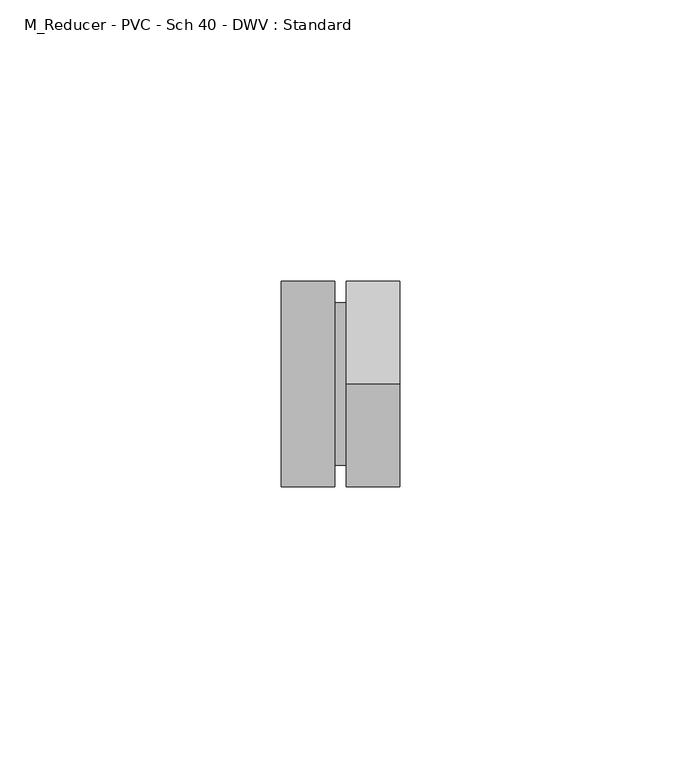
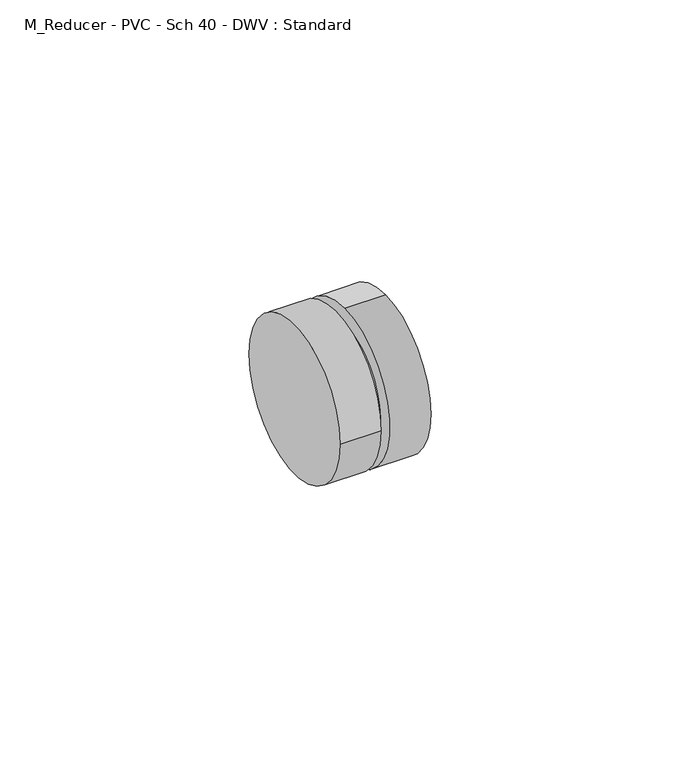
"""IFC4 building model written with IfcOpenShell, lengths in millimetres: pipe fitting geometry, M_Reducer - PVC - Sch 40 - DWV : Standard."""

from ifc_helpers import new_model, si_unit, frame, origin, place, context, project, spatial, polyline, circle_curve, source, transform, mapped, element, save
from ifc_brep_helpers import plane_surface, cylinder_surface, revolved_surface, advanced_brep


def m_reducer_pvc_sch_40_dwv_standard_054c0fc6(model_context):
    return source(origin(), model_context, "Body", "AdvancedBrep", [
        advanced_brep(
        [(0.0, -18.2741094, 0.0), (0.0, 18.2741094, 0.0), (9.525, -18.2741094, 0.0), (9.525, 18.2741094, 0.0), (9.525, 14.4700625, 0.0), (9.525, -14.4700625, 0.0), (11.5635938, 14.4440625, 0.0), (11.5635937, -14.4440625, 0.0), (11.5635938, 0.0, 18.2471094), (11.5635938, 0.0, -18.2471094), (21.0635938, 0.0, 18.2471094), (21.0635938, 0.0, -18.2471094)],
        [
            (0, 1, circle_curve(frame((0.0, 0.0, 0.0), z_axis=(-1.0, 0.0, 0.0), x_axis=(0.0, 1.0, 0.0)), 18.2741094)),
            (1, 0, circle_curve(frame((0.0, 0.0, 0.0), z_axis=(-1.0, 0.0, 0.0), x_axis=(0.0, 1.0, 0.0)), 18.2741094)),
            (2, 3, circle_curve(frame((9.525, 0.0, 0.0), z_axis=(1.0, 0.0, 0.0), x_axis=(0.0, 1.0, 0.0)), 18.2741094)),
            (3, 2, circle_curve(frame((9.525, 0.0, 0.0), z_axis=(1.0, 0.0, 0.0), x_axis=(0.0, 1.0, 0.0)), 18.2741094)),
            (4, 5, circle_curve(frame((9.525, 0.0, 0.0), z_axis=(-1.0, 2.888309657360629e-12, 1.7718951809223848e-12), x_axis=(-2.890287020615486e-12, -1.0, 0.0)), 14.4700625)),
            (5, 4, circle_curve(frame((9.525, 0.0, 0.0), z_axis=(-1.0, 2.888309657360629e-12, 1.7718951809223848e-12), x_axis=(2.890287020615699e-12, 1.0, 0.0)), 14.4700625)),
            (0, 2),
            (3, 1),
            (4, 6),
            (6, 7, circle_curve(frame((11.5635938, 0.0, 0.0), z_axis=(-1.0, 2.888309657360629e-12, 1.7718951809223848e-12), x_axis=(-2.890287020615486e-12, -1.0, 0.0)), 14.4440625)),
            (7, 5),
            (7, 6, circle_curve(frame((11.5635938, 0.0, 0.0), z_axis=(-1.0, 2.888309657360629e-12, 1.7718951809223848e-12), x_axis=(2.890287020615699e-12, 1.0, 0.0)), 14.4440625)),
            (8, 9, circle_curve(frame((11.5635938, 0.0, 0.0), z_axis=(-1.0, 0.0, 0.0), x_axis=(0.0, 0.0, -1.0)), 18.2471094)),
            (9, 8, circle_curve(frame((11.5635938, 0.0, 0.0), z_axis=(-1.0, 0.0, 0.0), x_axis=(0.0, 0.0, -1.0)), 18.2471094)),
            (10, 11, circle_curve(frame((21.0635938, 0.0, 0.0), z_axis=(1.0, 0.0, 0.0), x_axis=(0.0, 0.0, -1.0)), 18.2471094)),
            (11, 10, circle_curve(frame((21.0635938, 0.0, 0.0), z_axis=(1.0, 0.0, 0.0), x_axis=(0.0, 0.0, -1.0)), 18.2471094)),
            (8, 10),
            (11, 9),
        ],
        [
            plane_surface(frame((0.0, 0.0, 0.0), z_axis=(-1.0, 0.0, 0.0), x_axis=(0.0, 0.0, 1.0))),
            plane_surface(frame((9.525, 0.0, 0.0), z_axis=(1.0, 0.0, 0.0), x_axis=(0.0, 0.0, 1.0))),
            cylinder_surface(frame((0.0, 0.0, 0.0), z_axis=(-1.0, 0.0, 0.0), x_axis=(0.0, 1.0, 0.0)), 18.2741094),
            revolved_surface(polyline([(11.563593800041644, 14.44406249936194, 0.0), (9.525000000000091, 14.4700625, 0.0)]), (1144.0857298, 0.0, 0.0), (-1.0, 2.888309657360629e-12, 1.7718951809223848e-12)),
            plane_surface(frame((11.5635938, 0.0, 0.0), z_axis=(-1.0, 0.0, 0.0), x_axis=(0.0, 1.0, 0.0))),
            plane_surface(frame((21.0635938, 0.0, 0.0), z_axis=(1.0, 0.0, 0.0), x_axis=(0.0, 1.0, 0.0))),
            cylinder_surface(frame((11.5635938, 0.0, 0.0), z_axis=(-1.0, 0.0, 0.0), x_axis=(0.0, 0.0, -1.0)), 18.2471094),
        ],
        [
            (0, [[1, 2]]),
            (1, [[3, 4], [5, 6]]),
            (2, [[-1, 7, -4, 8]]),
            (2, [[-2, -8, -3, -7]]),
            (3, [[9, 10, 11, -5]]),
            (3, [[-9, -6, -11, 12]]),
            (4, [[13, 14], [-10, -12]]),
            (5, [[15, 16]]),
            (6, [[-13, 17, -16, 18]]),
            (6, [[-14, -18, -15, -17]]),
        ],
    ),
    ])


if __name__ == "__main__":
    model = new_model("IFC4")
    model_context = context("Model", 3, world=origin())
    ifc_project = project(units=[si_unit("LENGTHUNIT", "METRE", prefix="MILLI")], contexts=[model_context])
    site = spatial("IfcSite", under=ifc_project)
    building = spatial("IfcBuilding", under=site)
    placement = place(None, origin())
    m_reducer_pvc_sch_40_dwv_standard_shape = m_reducer_pvc_sch_40_dwv_standard_054c0fc6(model_context)
    element("IfcPipeFitting", 1, ObjectType="M_Reducer - PVC - Sch 40 - DWV : Standard", at=placement, inside=building, context=model_context, shape_type="MappedRepresentation", body=[
        mapped(m_reducer_pvc_sch_40_dwv_standard_shape, transform((0.0, 0.0, 0.0), x_axis=(1.0, 0.0, 0.0), y_axis=(0.0, 1.0, 0.0), z_axis=(0.0, 0.0, 1.0))),
    ])
    save(model, "model.ifc")
